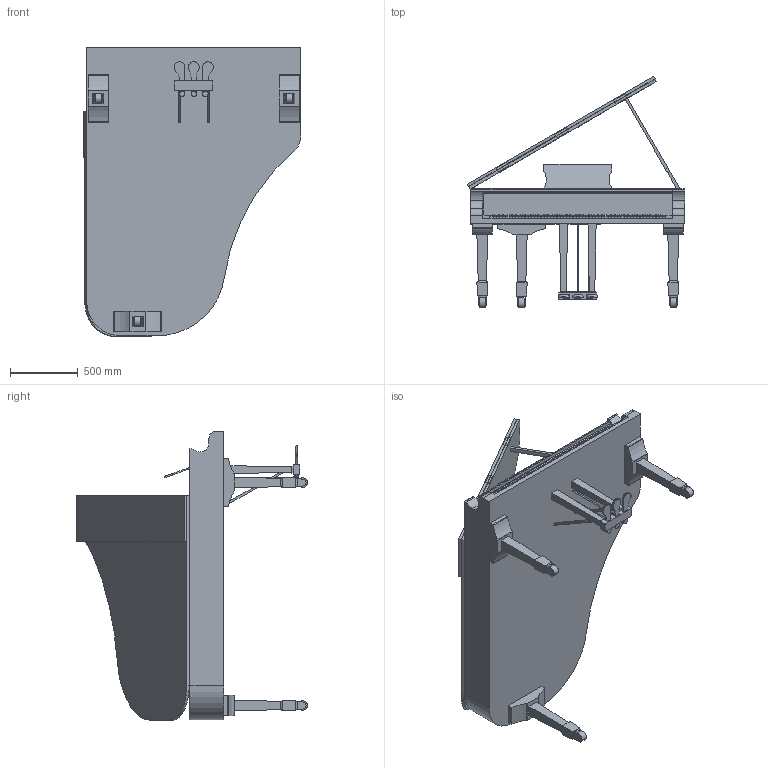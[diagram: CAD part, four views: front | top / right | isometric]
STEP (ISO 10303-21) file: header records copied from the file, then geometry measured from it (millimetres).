
FILE_DESCRIPTION(/* description */ (''),/* implementation_level */ '2;1');
FILE_NAME(/* name */ 'D:\100-HP用\楽器\グランドピアノ\piano2-stp.stp',/* time_stamp */ '2022-05-16T19:17:54+09:00',/* author */ ('D'),/* organization */ (''),/* preprocessor_version */ 'ST-DEVELOPER v18',/* originating_system */ 'Autodesk Inventor 2020',/* authorisation */ '');
FILE_SCHEMA (('AUTOMOTIVE_DESIGN { 1 0 10303 214 3 1 1 }'));
Length unit declared in the file: millimetre
Products named in the file (1): Part1
Bounding box: 1600.5 x 1698.62 x 2125 mm (x, y, z)
Volume: 244792288.4 mm3; surface area: 19072066.9 mm2
Topology: 8 solids, 8 shells, 1323 faces, 3678 edges, 2374 vertices
Faces by surface type: plane 1113, cylinder 189, torus 18, cone 3
Full cylindrical faces by diameter (mm): 10 x3, 20 x3, 40 x3, 70 x3, 100 x1, 110 x1, 120 x3, 125 x1, 130 x1
Entity records: 42361 total; most frequent: CARTESIAN_POINT 7710, ORIENTED_EDGE 7358, DIRECTION 6699, EDGE_CURVE 3679, LINE 3243, VECTOR 3243, VERTEX_POINT 2376, AXIS2_PLACEMENT_3D 1728
